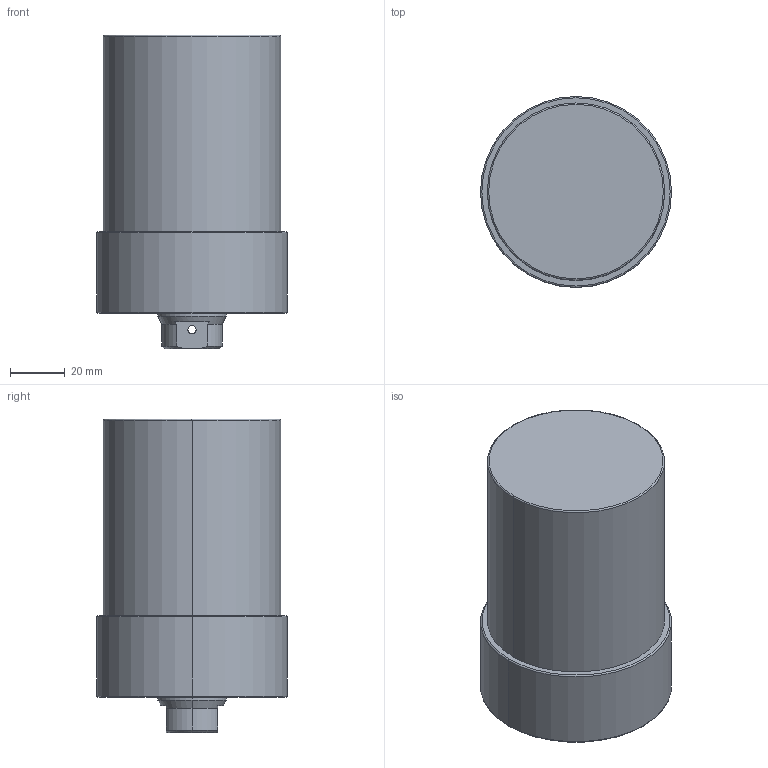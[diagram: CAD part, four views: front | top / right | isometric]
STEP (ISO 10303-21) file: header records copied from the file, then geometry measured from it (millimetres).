
FILE_DESCRIPTION (( 'STEP AP203' ), '1' );
FILE_NAME ('CLLU-065GB-055.STEP', '2020-01-06T08:46:29', ( '' ), ( '' ), 'SwSTEP 2.0', 'SolidWorks 2015', '' );
FILE_SCHEMA (( 'CONFIG_CONTROL_DESIGN' ));
Length unit declared in the file: millimetre
Products named in the file (1): CLLU-065GB-055
Bounding box: 70 x 70 x 115 mm (x, y, z)
Volume: 354845.9 mm3; surface area: 31923.1 mm2
Topology: 1 solids, 1 shells, 68 faces, 157 edges, 90 vertices
Faces by surface type: cylinder 27, cone 25, plane 10, torus 6
Entity records: 2051 total; most frequent: CARTESIAN_POINT 438, DIRECTION 352, ORIENTED_EDGE 294, AXIS2_PLACEMENT_3D 148, EDGE_CURVE 147, VERTEX_POINT 90, EDGE_LOOP 81, CIRCLE 79
